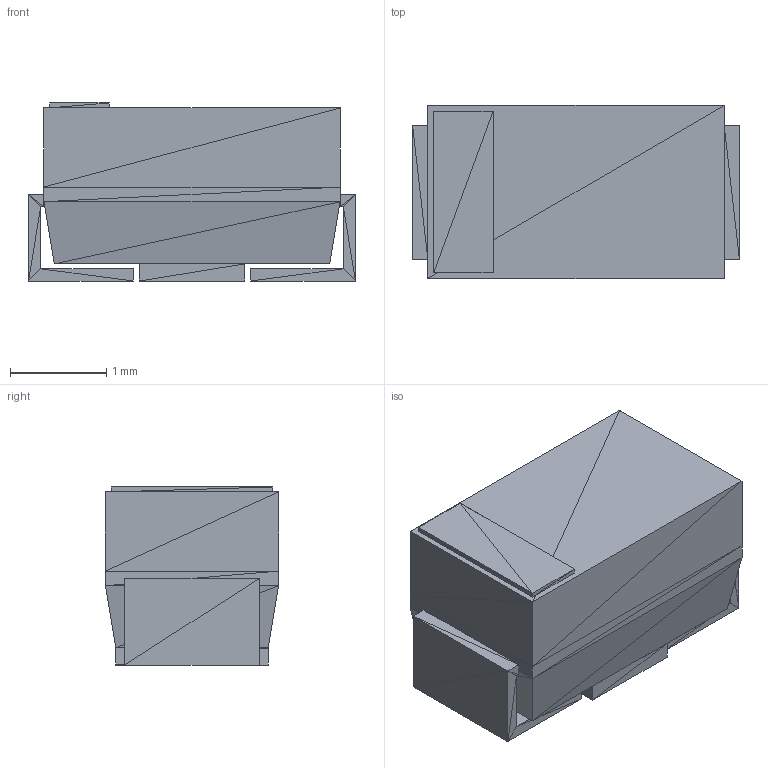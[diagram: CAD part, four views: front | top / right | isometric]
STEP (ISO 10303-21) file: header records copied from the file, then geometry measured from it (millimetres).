
FILE_DESCRIPTION(('STEP AP214'),'1');
FILE_NAME('TAJA-M','2019-12-19T10:58:09',(''),(''),'','','');
FILE_SCHEMA(('AUTOMOTIVE_DESIGN'));
Length unit declared in the file: millimetre
Products named in the file (1): product
Bounding box: 3.4 x 1.8 x 1.85 mm (x, y, z)
Volume: 0.7 mm3; surface area: 41.4 mm2
Topology: 3 solids, 4 shells, 108 faces, 166 edges, 64 vertices
Faces by surface type: plane 108
Entity records: 2153 total; most frequent: DIRECTION 384, ORIENTED_EDGE 324, CARTESIAN_POINT 173, EDGE_CURVE 166, LINE 166, VECTOR 166, AXIS2_PLACEMENT_3D 109, STYLED_ITEM 108
